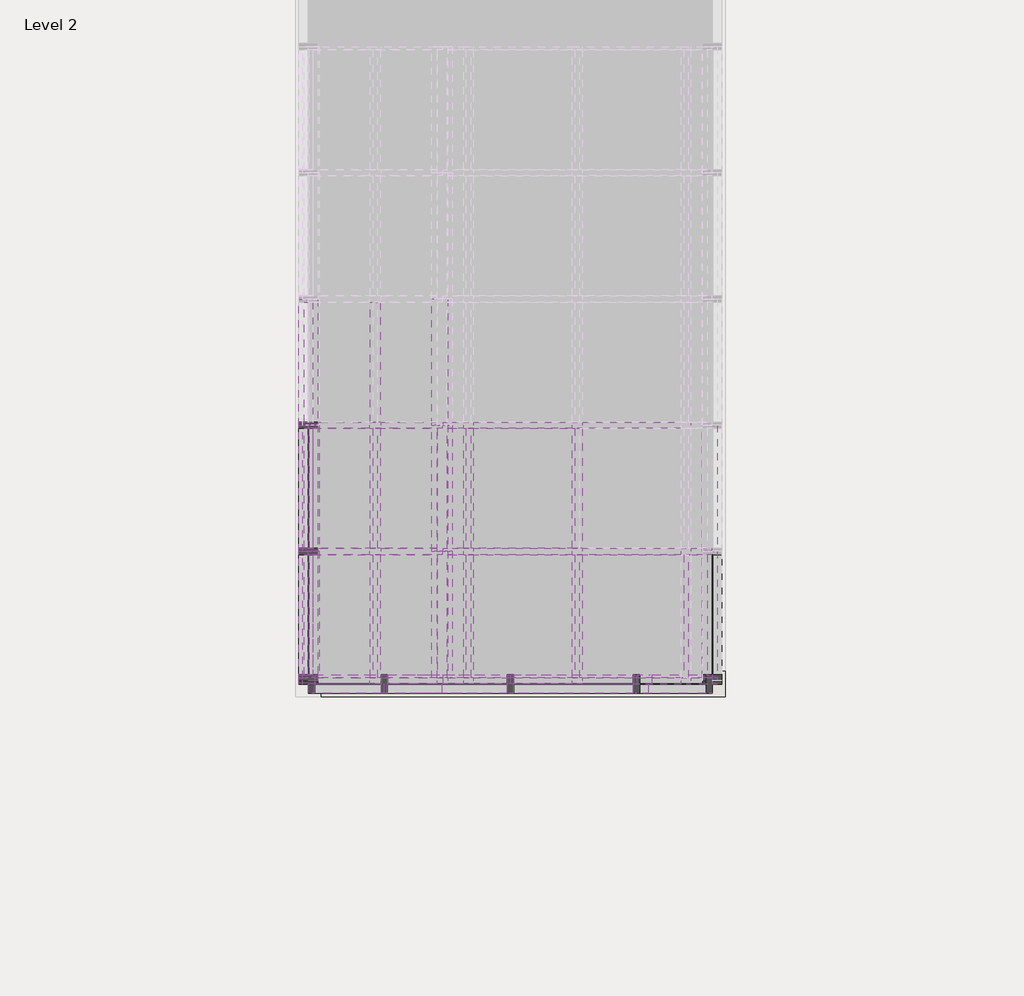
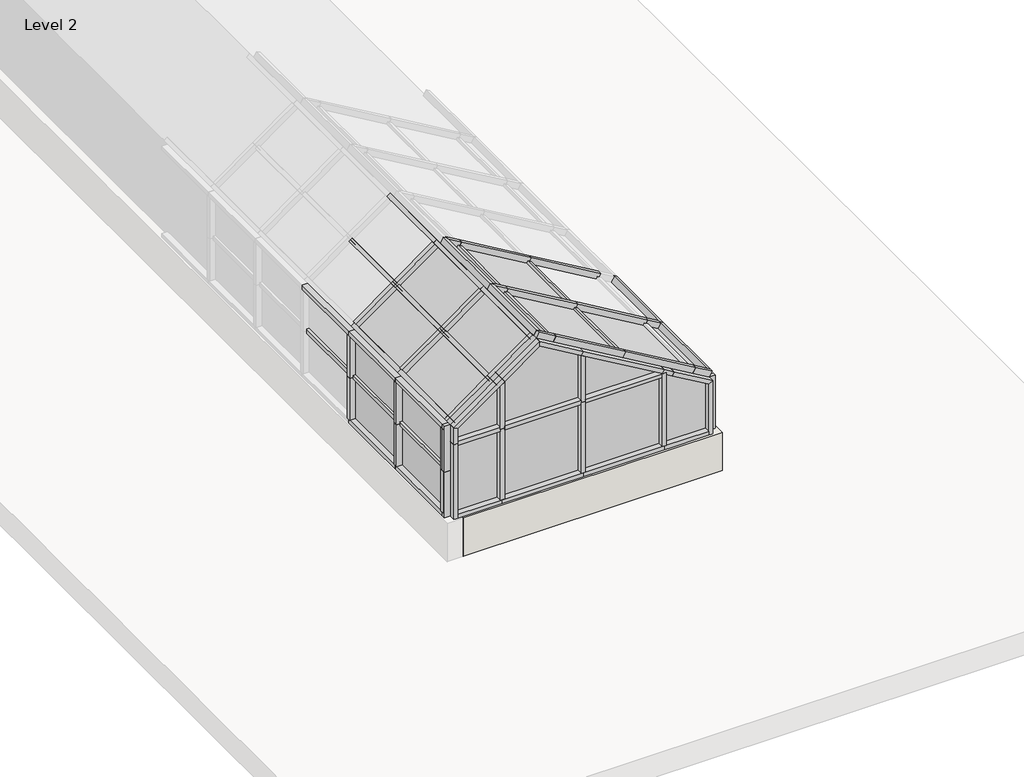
# One storey, part 1 of 5: 73 members, 23 plates, 1 wall.
"""IFC4 building model written with IfcOpenShell, lengths in millimetres."""

from ifc_helpers import new_model, si_unit, origin, place, context, project, spatial, faceted_brep, transform, mapped, element, save
from components import rectangular_mullion_50mm_x_150mm_a053b0ca, rectangular_mullion_50mm_x_150mm_32254d86, rectangular_mullion_50mm_x_150mm_d223150d, rectangular_mullion_50mm_x_150mm_c5f810fe, rectangular_mullion_50mm_x_150mm_f7fe99b2, rectangular_mullion_50mm_x_150mm_8a69f4a4, rectangular_mullion_50mm_x_150mm_cf8f8159, rectangular_mullion_50mm_x_150mm_35f7bb67, rectangular_mullion_50mm_x_150mm_9f3c5d86, rectangular_mullion_50mm_x_150mm_c1d4a15c, rectangular_mullion_50mm_x_150mm_468e4a4c, rectangular_mullion_50mm_x_150mm_efdcecc3, rectangular_mullion_50mm_x_150mm_a958f880, rectangular_mullion_50mm_x_150mm_548437d9, rectangular_mullion_50mm_x_150mm_ce2d75c2, rectangular_mullion_50mm_x_150mm_bbc1c4ea, rectangular_mullion_50mm_x_150mm_eeb88b28, rectangular_mullion_50mm_x_150mm_fae529a7, rectangular_mullion_50mm_x_150mm_10ca3b23, rectangular_mullion_50mm_x_150mm_37271eec, rectangular_mullion_50mm_x_150mm_5dbd0429, rectangular_mullion_50mm_x_150mm_457f67df, rectangular_mullion_50mm_x_150mm_a65b6ca2, rectangular_mullion_50mm_x_150mm_a3f7cd42, rectangular_mullion_50mm_x_150mm_b93c35cb, rectangular_mullion_50mm_x_150mm_5b0837ce, rectangular_mullion_50mm_x_150mm_ae680e05, rectangular_mullion_50mm_x_65mm_20714c67, rectangular_mullion_50mm_x_65mm_31c1307f, system_panel_glazed_870feb4d, system_panel_glazed_ce9ce1f6, system_panel_glazed_7648efc2, system_panel_glazed_054ac1a6, system_panel_glazed_9cc0c483, system_panel_glazed_28aef23e, system_panel_glazed_b73f3a15, system_panel_glazed_e5572be6, system_panel_glazed_8ed7f146, system_panel_glazed_6534091e, system_panel_glazed_73a5751a, system_panel_glazed_5eb767f0, system_panel_glazed_1192e014, system_panel_glazed_51a322f3, system_panel_glazed_750eec45

model = new_model("IFC4")

# Units and contexts
model_context = context("Model", 3, world=origin())
ifc_project = project(units=[si_unit("LENGTHUNIT", "METRE", prefix="MILLI")], contexts=[model_context])

# Site, building, storey
site = spatial("IfcSite", under=ifc_project)
building = spatial("IfcBuilding", under=site)
storey = spatial("IfcBuildingStorey", under=building, Name="Level 2", Elevation=4000.0)

# Members
placement = place(None, origin())
rectangular_mullion_50mm_x_150mm_shape = rectangular_mullion_50mm_x_150mm_a053b0ca(model_context)
element("IfcMember", 1, ObjectType="Rectangular Mullion : 50mm x 150mm", at=placement, inside=storey, context=model_context, shape_type="MappedRepresentation", body=[
    mapped(rectangular_mullion_50mm_x_150mm_shape, transform((3871.0159363, -6466.183534, 5777.9584148), x_axis=(0.0, 0.0, 1.0), y_axis=(0.0, -1.0, 0.0), z_axis=(1.0, 0.0, 0.0))),
])
element("IfcMember", 2, ObjectType="Rectangular Mullion : 50mm x 150mm", at=placement, inside=storey, context=model_context, shape_type="MappedRepresentation", body=[
    mapped(rectangular_mullion_50mm_x_150mm_shape, transform((2871.0159363, -6466.183534, 5777.9584148), x_axis=(0.0, 0.0, 1.0), y_axis=(0.0, -1.0, 0.0), z_axis=(1.0, 0.0, 0.0))),
])
rectangular_mullion_50mm_x_150mm_2_shape = rectangular_mullion_50mm_x_150mm_32254d86(model_context)
element("IfcMember", 3, ObjectType="Rectangular Mullion : 50mm x 150mm", at=placement, inside=storey, context=model_context, shape_type="MappedRepresentation", body=[
    mapped(rectangular_mullion_50mm_x_150mm_2_shape, transform((1825.8229716, -6466.183534, 6375.9168295), x_axis=(0.0, -1.0, 0.0), y_axis=(-0.582827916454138, 0.0, 0.8125956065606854), z_axis=(-0.8125956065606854, 0.0, -0.582827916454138))),
])
element("IfcMember", 4, ObjectType="Rectangular Mullion : 50mm x 150mm", at=placement, inside=storey, context=model_context, shape_type="MappedRepresentation", body=[
    mapped(rectangular_mullion_50mm_x_150mm_2_shape, transform((1296.0159363, -6466.183534, 5995.9168295), x_axis=(0.0, -1.0, 0.0), y_axis=(-0.582827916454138, 0.0, 0.8125956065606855), z_axis=(-0.8125956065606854, 0.0, -0.5828279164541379))),
])
rectangular_mullion_50mm_x_150mm_3_shape = rectangular_mullion_50mm_x_150mm_d223150d(model_context)
element("IfcMember", 5, ObjectType="Rectangular Mullion : 50mm x 150mm", at=placement, inside=storey, context=model_context, shape_type="MappedRepresentation", body=[
    mapped(rectangular_mullion_50mm_x_150mm_3_shape, transform((1296.0159363, -6466.183534, 5397.9584148), x_axis=(0.0, -1.0, 0.0), y_axis=(-1.0, 0.0, 0.0), z_axis=(0.0, 0.0, -1.0))),
])
element("IfcMember", 6, ObjectType="Rectangular Mullion : 50mm x 150mm", at=placement, inside=storey, context=model_context, shape_type="MappedRepresentation", body=[
    mapped(rectangular_mullion_50mm_x_150mm_3_shape, transform((1296.0159363, -6466.183534, 4800.0), x_axis=(0.0, -1.0, 0.0), y_axis=(-1.0, 0.0, 0.0), z_axis=(0.0, 0.0, -1.0))),
])
rectangular_mullion_50mm_x_150mm_4_shape = rectangular_mullion_50mm_x_150mm_c5f810fe(model_context)
element("IfcMember", 7, ObjectType="Rectangular Mullion : 50mm x 150mm", at=placement, inside=storey, context=model_context, shape_type="MappedRepresentation", body=[
    mapped(rectangular_mullion_50mm_x_150mm_4_shape, transform((2896.0159363, -6466.183534, 6437.8030437), x_axis=(-1.0, 0.0, 0.0), y_axis=(0.0, -1.0, 0.0), z_axis=(0.0, 0.0, 1.0))),
])
rectangular_mullion_50mm_x_150mm_5_shape = rectangular_mullion_50mm_x_150mm_f7fe99b2(model_context)
element("IfcMember", 8, ObjectType="Rectangular Mullion : 50mm x 150mm", at=placement, inside=storey, context=model_context, shape_type="MappedRepresentation", body=[
    mapped(rectangular_mullion_50mm_x_150mm_5_shape, transform((1896.0159363, -6466.183534, 6426.2621908), x_axis=(-1.0, 0.0, 0.0), y_axis=(0.0, -1.0, 0.0), z_axis=(0.0, 0.0, 1.0))),
])
rectangular_mullion_50mm_x_150mm_6_shape = rectangular_mullion_50mm_x_150mm_8a69f4a4(model_context)
element("IfcMember", 9, ObjectType="Rectangular Mullion : 50mm x 150mm", at=placement, inside=storey, context=model_context, shape_type="MappedRepresentation", body=[
    mapped(rectangular_mullion_50mm_x_150mm_6_shape, transform((1871.0159363, -6466.183534, 5777.9584148), x_axis=(0.0, 0.0, 1.0), y_axis=(0.0, -1.0, 0.0), z_axis=(1.0, 0.0, 0.0))),
])
rectangular_mullion_50mm_x_150mm_7_shape = rectangular_mullion_50mm_x_150mm_cf8f8159(model_context)
element("IfcMember", 10, ObjectType="Rectangular Mullion : 50mm x 150mm", at=placement, inside=storey, context=model_context, shape_type="MappedRepresentation", body=[
    mapped(rectangular_mullion_50mm_x_150mm_7_shape, transform((3896.0159363, -6466.183534, 5849.1241598), x_axis=(0.5073040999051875, 0.0, 0.8617671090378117), y_axis=(0.0, -1.0, 0.0), z_axis=(0.8617671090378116, 0.0, -0.5073040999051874))),
])
rectangular_mullion_50mm_x_150mm_8_shape = rectangular_mullion_50mm_x_150mm_35f7bb67(model_context)
element("IfcMember", 11, ObjectType="Rectangular Mullion : 50mm x 150mm", at=placement, inside=storey, context=model_context, shape_type="MappedRepresentation", body=[
    mapped(rectangular_mullion_50mm_x_150mm_8_shape, transform((1296.0159363, -6466.183534, 5777.9584148), x_axis=(-1.0, 0.0, 0.0), y_axis=(0.0, -1.0, 0.0), z_axis=(0.0, 0.0, 1.0))),
])
rectangular_mullion_50mm_x_150mm_9_shape = rectangular_mullion_50mm_x_150mm_9f3c5d86(model_context)
element("IfcMember", 12, ObjectType="Rectangular Mullion : 50mm x 150mm", at=placement, inside=storey, context=model_context, shape_type="MappedRepresentation", body=[
    mapped(rectangular_mullion_50mm_x_150mm_9_shape, transform((4016.906539, -6466.183534, 5777.9584148), x_axis=(0.5073040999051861, 0.0, 0.8617671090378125), y_axis=(0.0, -1.0, 0.0), z_axis=(0.8617671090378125, 0.0, -0.5073040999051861))),
])
rectangular_mullion_50mm_x_150mm_10_shape = rectangular_mullion_50mm_x_150mm_c1d4a15c(model_context)
element("IfcMember", 13, ObjectType="Rectangular Mullion : 50mm x 150mm", at=placement, inside=storey, context=model_context, shape_type="MappedRepresentation", body=[
    mapped(rectangular_mullion_50mm_x_150mm_10_shape, transform((1896.0159363, -6466.183534, 6426.2621908), x_axis=(-0.5828279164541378, 0.0, 0.8125956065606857), y_axis=(0.0, -1.0, 0.0), z_axis=(0.8125956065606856, 0.0, 0.5828279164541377))),
])
rectangular_mullion_50mm_x_150mm_11_shape = rectangular_mullion_50mm_x_150mm_468e4a4c(model_context)
element("IfcMember", 14, ObjectType="Rectangular Mullion : 50mm x 150mm", at=placement, inside=storey, context=model_context, shape_type="MappedRepresentation", body=[
    mapped(rectangular_mullion_50mm_x_150mm_11_shape, transform((2896.0159363, -6466.183534, 6437.8030437), x_axis=(0.5073040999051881, 0.0, 0.8617671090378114), y_axis=(0.0, -1.0, 0.0), z_axis=(0.8617671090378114, 0.0, -0.5073040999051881))),
])
rectangular_mullion_50mm_x_150mm_12_shape = rectangular_mullion_50mm_x_150mm_efdcecc3(model_context)
element("IfcMember", 15, ObjectType="Rectangular Mullion : 50mm x 150mm", at=placement, inside=storey, context=model_context, shape_type="MappedRepresentation", body=[
    mapped(rectangular_mullion_50mm_x_150mm_12_shape, transform((4496.0159363, -6466.183534, 5495.9168295), x_axis=(0.5073040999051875, 0.0, 0.8617671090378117), y_axis=(0.0, -1.0, 0.0), z_axis=(0.8617671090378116, 0.0, -0.5073040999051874))),
])
rectangular_mullion_50mm_x_150mm_13_shape = rectangular_mullion_50mm_x_150mm_a958f880(model_context)
element("IfcMember", 16, ObjectType="Rectangular Mullion : 50mm x 150mm", at=placement, inside=storey, context=model_context, shape_type="MappedRepresentation", body=[
    mapped(rectangular_mullion_50mm_x_150mm_13_shape, transform((1296.0159363, -6466.183534, 5995.9168295), x_axis=(-1.0, 0.0, 0.0), y_axis=(0.0, -1.0, 0.0), z_axis=(0.0, 0.0, 1.0))),
])
rectangular_mullion_50mm_x_150mm_14_shape = rectangular_mullion_50mm_x_150mm_548437d9(model_context)
element("IfcMember", 17, ObjectType="Rectangular Mullion : 50mm x 150mm", at=placement, inside=storey, context=model_context, shape_type="MappedRepresentation", body=[
    mapped(rectangular_mullion_50mm_x_150mm_14_shape, transform((4496.0159363, -6466.183534, 4800.0), x_axis=(1.0, 0.0, 0.0), y_axis=(0.0, -1.0, 0.0), z_axis=(0.0, 0.0, -1.0))),
])
rectangular_mullion_50mm_x_150mm_15_shape = rectangular_mullion_50mm_x_150mm_ce2d75c2(model_context)
element("IfcMember", 18, ObjectType="Rectangular Mullion : 50mm x 150mm", at=placement, inside=storey, context=model_context, shape_type="MappedRepresentation", body=[
    mapped(rectangular_mullion_50mm_x_150mm_15_shape, transform((2355.6300069, -6466.183534, 6755.9168295), x_axis=(-0.5828279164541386, 0.0, 0.8125956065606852), y_axis=(0.0, -1.0, 0.0), z_axis=(0.8125956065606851, 0.0, 0.5828279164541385))),
])
rectangular_mullion_50mm_x_150mm_16_shape = rectangular_mullion_50mm_x_150mm_bbc1c4ea(model_context)
element("IfcMember", 19, ObjectType="Rectangular Mullion : 50mm x 150mm", at=placement, inside=storey, context=model_context, shape_type="MappedRepresentation", body=[
    mapped(rectangular_mullion_50mm_x_150mm_16_shape, transform((2564.0558626, -5416.183534, 6633.2209294), x_axis=(0.0, -1.0, 0.0), y_axis=(0.5073040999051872, 0.0, 0.8617671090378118), z_axis=(-0.8617671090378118, 0.0, 0.5073040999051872))),
])
element("IfcMember", 20, ObjectType="Rectangular Mullion : 50mm x 150mm", at=placement, inside=storey, context=model_context, shape_type="MappedRepresentation", body=[
    mapped(rectangular_mullion_50mm_x_150mm_16_shape, transform((3425.8229716, -5416.183534, 6125.9168295), x_axis=(0.0, -1.0, 0.0), y_axis=(0.5073040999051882, 0.0, 0.8617671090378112), z_axis=(-0.8617671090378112, 0.0, 0.5073040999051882))),
])
element("IfcMember", 21, ObjectType="Rectangular Mullion : 50mm x 150mm", at=placement, inside=storey, context=model_context, shape_type="MappedRepresentation", body=[
    mapped(rectangular_mullion_50mm_x_150mm_16_shape, transform((2564.0558626, -4416.183534, 6633.2209294), x_axis=(0.0, -1.0, 0.0), y_axis=(0.5073040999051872, 0.0, 0.8617671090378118), z_axis=(-0.8617671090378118, 0.0, 0.5073040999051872))),
])
element("IfcMember", 22, ObjectType="Rectangular Mullion : 50mm x 150mm", at=placement, inside=storey, context=model_context, shape_type="MappedRepresentation", body=[
    mapped(rectangular_mullion_50mm_x_150mm_16_shape, transform((3425.8229716, -4416.183534, 6125.9168295), x_axis=(0.0, -1.0, 0.0), y_axis=(0.507304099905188, 0.0, 0.8617671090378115), z_axis=(-0.8617671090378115, 0.0, 0.507304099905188))),
])
rectangular_mullion_50mm_x_150mm_17_shape = rectangular_mullion_50mm_x_150mm_eeb88b28(model_context)
element("IfcMember", 23, ObjectType="Rectangular Mullion : 50mm x 150mm", at=placement, inside=storey, context=model_context, shape_type="MappedRepresentation", body=[
    mapped(rectangular_mullion_50mm_x_150mm_17_shape, transform((2564.0558626, -6466.183534, 6633.2209294), x_axis=(0.0, -1.0, 0.0), y_axis=(0.507304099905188, 0.0, 0.8617671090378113), z_axis=(-0.8617671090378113, 0.0, 0.507304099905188))),
])
element("IfcMember", 24, ObjectType="Rectangular Mullion : 50mm x 150mm", at=placement, inside=storey, context=model_context, shape_type="MappedRepresentation", body=[
    mapped(rectangular_mullion_50mm_x_150mm_17_shape, transform((3425.8229716, -6466.183534, 6125.9168295), x_axis=(0.0, -1.0, 0.0), y_axis=(0.5073040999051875, 0.0, 0.8617671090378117), z_axis=(-0.8617671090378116, 0.0, 0.5073040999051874))),
])
rectangular_mullion_50mm_x_150mm_18_shape = rectangular_mullion_50mm_x_150mm_fae529a7(model_context)
element("IfcMember", 25, ObjectType="Rectangular Mullion : 50mm x 150mm", at=placement, inside=storey, context=model_context, shape_type="MappedRepresentation", body=[
    mapped(rectangular_mullion_50mm_x_150mm_18_shape, transform((4287.5900806, -6466.183534, 5618.6127296), x_axis=(0.0, -1.0, 0.0), y_axis=(0.507304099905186, 0.0, 0.8617671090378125), z_axis=(-0.8617671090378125, 0.0, 0.507304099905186))),
])
element("IfcMember", 26, ObjectType="Rectangular Mullion : 50mm x 150mm", at=placement, inside=storey, context=model_context, shape_type="MappedRepresentation", body=[
    mapped(rectangular_mullion_50mm_x_150mm_18_shape, transform((2355.6300069, -6466.183534, 6755.9168295), x_axis=(0.0, -1.0, 0.0), y_axis=(0.5073040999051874, 0.0, 0.8617671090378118), z_axis=(-0.8617671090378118, 0.0, 0.5073040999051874))),
])
rectangular_mullion_50mm_x_150mm_19_shape = rectangular_mullion_50mm_x_150mm_10ca3b23(model_context)
element("IfcMember", 27, ObjectType="Rectangular Mullion : 50mm x 150mm", at=placement, inside=storey, context=model_context, shape_type="MappedRepresentation", body=[
    mapped(rectangular_mullion_50mm_x_150mm_19_shape, transform((4496.0159363, -6466.183534, 5495.9168295), x_axis=(0.0, -1.0, 0.0), y_axis=(1.0, 0.0, 0.0), z_axis=(0.0, 0.0, 1.0))),
])
element("IfcMember", 28, ObjectType="Rectangular Mullion : 50mm x 150mm", at=placement, inside=storey, context=model_context, shape_type="MappedRepresentation", body=[
    mapped(rectangular_mullion_50mm_x_150mm_17_shape, transform((1296.0159363, -4416.183534, 5995.9168295), x_axis=(-0.8125956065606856, 0.0, -0.5828279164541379), y_axis=(-0.5828279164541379, 0.0, 0.8125956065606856), z_axis=(0.0, 1.0, 0.0))),
])
element("IfcMember", 29, ObjectType="Rectangular Mullion : 50mm x 150mm", at=placement, inside=storey, context=model_context, shape_type="MappedRepresentation", body=[
    mapped(rectangular_mullion_50mm_x_150mm_17_shape, transform((1296.0159363, -4416.183534, 4800.0), x_axis=(0.0, 0.0, -1.0), y_axis=(-1.0, 0.0, 0.0), z_axis=(0.0, 1.0, 0.0))),
])
element("IfcMember", 30, ObjectType="Rectangular Mullion : 50mm x 150mm", at=placement, inside=storey, context=model_context, shape_type="MappedRepresentation", body=[
    mapped(rectangular_mullion_50mm_x_150mm_17_shape, transform((1896.0159363, -6466.183534, 4800.0), x_axis=(0.0, 0.0, -1.0), y_axis=(0.0, -1.0, 0.0), z_axis=(-1.0, 0.0, 0.0))),
])
element("IfcMember", 31, ObjectType="Rectangular Mullion : 50mm x 150mm", at=placement, inside=storey, context=model_context, shape_type="MappedRepresentation", body=[
    mapped(rectangular_mullion_50mm_x_150mm_17_shape, transform((2896.0159363, -6466.183534, 4800.0), x_axis=(0.0, 0.0, -1.0), y_axis=(0.0, -1.0, 0.0), z_axis=(-1.0, 0.0, 0.0))),
])
element("IfcMember", 32, ObjectType="Rectangular Mullion : 50mm x 150mm", at=placement, inside=storey, context=model_context, shape_type="MappedRepresentation", body=[
    mapped(rectangular_mullion_50mm_x_150mm_17_shape, transform((4496.0159363, -5416.183534, 5495.9168295), x_axis=(0.8617671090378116, 0.0, -0.5073040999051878), y_axis=(0.5073040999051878, 0.0, 0.8617671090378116), z_axis=(0.0, -1.0, 0.0))),
])
rectangular_mullion_50mm_x_150mm_20_shape = rectangular_mullion_50mm_x_150mm_37271eec(model_context)
element("IfcMember", 33, ObjectType="Rectangular Mullion : 50mm x 150mm", at=placement, inside=storey, context=model_context, shape_type="MappedRepresentation", body=[
    mapped(rectangular_mullion_50mm_x_150mm_20_shape, transform((3896.0159363, -6466.183534, 5802.9584148), x_axis=(-1.0, 0.0, 0.0), y_axis=(0.0, -1.0, 0.0), z_axis=(0.0, 0.0, 1.0))),
])
rectangular_mullion_50mm_x_150mm_21_shape = rectangular_mullion_50mm_x_150mm_5dbd0429(model_context)
element("IfcMember", 34, ObjectType="Rectangular Mullion : 50mm x 150mm", at=placement, inside=storey, context=model_context, shape_type="MappedRepresentation", body=[
    mapped(rectangular_mullion_50mm_x_150mm_21_shape, transform((3896.0159363, -6466.183534, 4800.0), x_axis=(0.0, 0.0, -1.0), y_axis=(0.0, -1.0, 0.0), z_axis=(-1.0, 0.0, 0.0))),
])
rectangular_mullion_50mm_x_150mm_22_shape = rectangular_mullion_50mm_x_150mm_457f67df(model_context)
element("IfcMember", 35, ObjectType="Rectangular Mullion : 50mm x 150mm", at=placement, inside=storey, context=model_context, shape_type="MappedRepresentation", body=[
    mapped(rectangular_mullion_50mm_x_150mm_22_shape, transform((2896.0159363, -6466.183534, 5777.9584148), x_axis=(-1.0, 0.0, 0.0), y_axis=(0.0, -1.0, 0.0), z_axis=(0.0, 0.0, 1.0))),
])
element("IfcMember", 36, ObjectType="Rectangular Mullion : 50mm x 150mm", at=placement, inside=storey, context=model_context, shape_type="MappedRepresentation", body=[
    mapped(rectangular_mullion_50mm_x_150mm_22_shape, transform((1896.0159363, -6466.183534, 5777.9584148), x_axis=(-1.0, 0.0, 0.0), y_axis=(0.0, -1.0, 0.0), z_axis=(0.0, 0.0, 1.0))),
])
element("IfcMember", 37, ObjectType="Rectangular Mullion : 50mm x 150mm", at=placement, inside=storey, context=model_context, shape_type="MappedRepresentation", body=[
    mapped(rectangular_mullion_50mm_x_150mm_21_shape, transform((1346.0159363, -6466.183534, 4800.0), x_axis=(0.0, 0.0, -1.0), y_axis=(0.0, -1.0, 0.0), z_axis=(-1.0, 0.0, 0.0))),
])
rectangular_mullion_50mm_x_150mm_23_shape = rectangular_mullion_50mm_x_150mm_a65b6ca2(model_context)
element("IfcMember", 38, ObjectType="Rectangular Mullion : 50mm x 150mm", at=placement, inside=storey, context=model_context, shape_type="MappedRepresentation", body=[
    mapped(rectangular_mullion_50mm_x_150mm_23_shape, transform((1296.0159363, -6441.183534, 5995.9168295), x_axis=(0.0, 0.0, 1.0), y_axis=(-1.0, 0.0, 0.0), z_axis=(0.0, -1.0, 0.0))),
])
element("IfcMember", 39, ObjectType="Rectangular Mullion : 50mm x 150mm", at=placement, inside=storey, context=model_context, shape_type="MappedRepresentation", body=[
    mapped(rectangular_mullion_50mm_x_150mm_17_shape, transform((2355.6300069, -5416.183534, 6755.9168295), x_axis=(0.8125956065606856, 0.0, 0.5828279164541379), y_axis=(-0.5828279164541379, 0.0, 0.8125956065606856), z_axis=(0.0, -1.0, 0.0))),
])
element("IfcMember", 40, ObjectType="Rectangular Mullion : 50mm x 150mm", at=placement, inside=storey, context=model_context, shape_type="MappedRepresentation", body=[
    mapped(rectangular_mullion_50mm_x_150mm_17_shape, transform((2355.6300069, -4416.183534, 6755.9168295), x_axis=(0.8125956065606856, 0.0, 0.5828279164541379), y_axis=(-0.5828279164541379, 0.0, 0.8125956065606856), z_axis=(0.0, -1.0, 0.0))),
])
element("IfcMember", 41, ObjectType="Rectangular Mullion : 50mm x 150mm", at=placement, inside=storey, context=model_context, shape_type="MappedRepresentation", body=[
    mapped(rectangular_mullion_50mm_x_150mm_17_shape, transform((1296.0159363, -4416.183534, 5995.9168295), x_axis=(0.0, 0.0, 1.0), y_axis=(-1.0, 0.0, 0.0), z_axis=(0.0, -1.0, 0.0))),
])
element("IfcMember", 42, ObjectType="Rectangular Mullion : 50mm x 150mm", at=placement, inside=storey, context=model_context, shape_type="MappedRepresentation", body=[
    mapped(rectangular_mullion_50mm_x_150mm_17_shape, transform((1296.0159363, -5416.183534, 5995.9168295), x_axis=(0.0, 0.0, 1.0), y_axis=(-1.0, 0.0, 0.0), z_axis=(0.0, -1.0, 0.0))),
])
element("IfcMember", 43, ObjectType="Rectangular Mullion : 50mm x 150mm", at=placement, inside=storey, context=model_context, shape_type="MappedRepresentation", body=[
    mapped(rectangular_mullion_50mm_x_150mm_17_shape, transform((2355.6300069, -4416.183534, 6755.9168295), x_axis=(-0.8617671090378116, 0.0, 0.5073040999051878), y_axis=(0.5073040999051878, 0.0, 0.8617671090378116), z_axis=(0.0, 1.0, 0.0))),
])
element("IfcMember", 44, ObjectType="Rectangular Mullion : 50mm x 150mm", at=placement, inside=storey, context=model_context, shape_type="MappedRepresentation", body=[
    mapped(rectangular_mullion_50mm_x_150mm_23_shape, transform((4496.0159363, -6441.183534, 4800.0), x_axis=(0.0, 0.0, -1.0), y_axis=(1.0, 0.0, 0.0), z_axis=(0.0, -1.0, 0.0))),
])
element("IfcMember", 45, ObjectType="Rectangular Mullion : 50mm x 150mm", at=placement, inside=storey, context=model_context, shape_type="MappedRepresentation", body=[
    mapped(rectangular_mullion_50mm_x_150mm_23_shape, transform((1296.0159363, -5416.183534, 4800.0), x_axis=(0.0, 0.0, -1.0), y_axis=(-1.0, 0.0, 0.0), z_axis=(0.0, 1.0, 0.0))),
])
rectangular_mullion_50mm_x_150mm_24_shape = rectangular_mullion_50mm_x_150mm_a3f7cd42(model_context)
element("IfcMember", 46, ObjectType="Rectangular Mullion : 50mm x 150mm", at=placement, inside=storey, context=model_context, shape_type="MappedRepresentation", body=[
    mapped(rectangular_mullion_50mm_x_150mm_24_shape, transform((2315.0002265, -4416.183534, 6726.7754337), x_axis=(0.0, 1.0, 0.0), y_axis=(-0.5828279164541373, 0.0, 0.8125956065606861), z_axis=(0.812595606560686, 0.0, 0.5828279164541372))),
])
element("IfcMember", 47, ObjectType="Rectangular Mullion : 50mm x 150mm", at=placement, inside=storey, context=model_context, shape_type="MappedRepresentation", body=[
    mapped(rectangular_mullion_50mm_x_150mm_24_shape, transform((2315.0002265, -5416.183534, 6726.7754337), x_axis=(0.0, 1.0, 0.0), y_axis=(-0.5828279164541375, 0.0, 0.8125956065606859), z_axis=(0.8125956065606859, 0.0, 0.5828279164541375))),
])
element("IfcMember", 48, ObjectType="Rectangular Mullion : 50mm x 150mm", at=placement, inside=storey, context=model_context, shape_type="MappedRepresentation", body=[
    mapped(rectangular_mullion_50mm_x_150mm_24_shape, transform((1825.8229716, -4416.183534, 6375.9168295), x_axis=(0.0, 1.0, 0.0), y_axis=(-0.582827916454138, 0.0, 0.8125956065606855), z_axis=(0.8125956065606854, 0.0, 0.5828279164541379))),
])
element("IfcMember", 49, ObjectType="Rectangular Mullion : 50mm x 150mm", at=placement, inside=storey, context=model_context, shape_type="MappedRepresentation", body=[
    mapped(rectangular_mullion_50mm_x_150mm_24_shape, transform((1825.8229716, -5416.183534, 6375.9168295), x_axis=(0.0, 1.0, 0.0), y_axis=(-0.5828279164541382, 0.0, 0.8125956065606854), z_axis=(0.8125956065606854, 0.0, 0.5828279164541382))),
])
rectangular_mullion_50mm_x_150mm_25_shape = rectangular_mullion_50mm_x_150mm_b93c35cb(model_context)
element("IfcMember", 50, ObjectType="Rectangular Mullion : 50mm x 150mm", at=placement, inside=storey, context=model_context, shape_type="MappedRepresentation", body=[
    mapped(rectangular_mullion_50mm_x_150mm_25_shape, transform((1296.0159363, -4416.183534, 5397.9584148), x_axis=(0.0, 1.0, 0.0), y_axis=(-1.0, 0.0, 0.0), z_axis=(0.0, 0.0, 1.0))),
])
element("IfcMember", 51, ObjectType="Rectangular Mullion : 50mm x 150mm", at=placement, inside=storey, context=model_context, shape_type="MappedRepresentation", body=[
    mapped(rectangular_mullion_50mm_x_150mm_25_shape, transform((1296.0159363, -5416.183534, 5397.9584148), x_axis=(0.0, 1.0, 0.0), y_axis=(-1.0, 0.0, 0.0), z_axis=(0.0, 0.0, 1.0))),
])
element("IfcMember", 52, ObjectType="Rectangular Mullion : 50mm x 150mm", at=placement, inside=storey, context=model_context, shape_type="MappedRepresentation", body=[
    mapped(rectangular_mullion_50mm_x_150mm_25_shape, transform((1296.0159363, -6416.183534, 5397.9584148), x_axis=(0.0, 1.0, 0.0), y_axis=(-1.0, 0.0, 0.0), z_axis=(0.0, 0.0, 1.0))),
])
element("IfcMember", 53, ObjectType="Rectangular Mullion : 50mm x 150mm", at=placement, inside=storey, context=model_context, shape_type="MappedRepresentation", body=[
    mapped(rectangular_mullion_50mm_x_150mm_25_shape, transform((1296.0159363, -6416.183534, 5945.9168295), x_axis=(0.0, 1.0, 0.0), y_axis=(-1.0, 0.0, 0.0), z_axis=(0.0, 0.0, 1.0))),
])
element("IfcMember", 54, ObjectType="Rectangular Mullion : 50mm x 150mm", at=placement, inside=storey, context=model_context, shape_type="MappedRepresentation", body=[
    mapped(rectangular_mullion_50mm_x_150mm_25_shape, transform((1296.0159363, -4416.183534, 5945.9168295), x_axis=(0.0, 1.0, 0.0), y_axis=(-1.0, 0.0, 0.0), z_axis=(0.0, 0.0, 1.0))),
])
element("IfcMember", 55, ObjectType="Rectangular Mullion : 50mm x 150mm", at=placement, inside=storey, context=model_context, shape_type="MappedRepresentation", body=[
    mapped(rectangular_mullion_50mm_x_150mm_25_shape, transform((1296.0159363, -5416.183534, 5945.9168295), x_axis=(0.0, 1.0, 0.0), y_axis=(-1.0, 0.0, 0.0), z_axis=(0.0, 0.0, 1.0))),
])
rectangular_mullion_50mm_x_150mm_26_shape = rectangular_mullion_50mm_x_150mm_5b0837ce(model_context)
element("IfcMember", 56, ObjectType="Rectangular Mullion : 50mm x 150mm", at=placement, inside=storey, context=model_context, shape_type="MappedRepresentation", body=[
    mapped(rectangular_mullion_50mm_x_150mm_26_shape, transform((2398.7183623, -5416.183534, 6730.5516245), x_axis=(0.0, -1.0, 0.0), y_axis=(0.5073040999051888, 0.0, 0.8617671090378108), z_axis=(-0.8617671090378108, 0.0, 0.5073040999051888))),
])
element("IfcMember", 57, ObjectType="Rectangular Mullion : 50mm x 150mm", at=placement, inside=storey, context=model_context, shape_type="MappedRepresentation", body=[
    mapped(rectangular_mullion_50mm_x_150mm_26_shape, transform((2398.7183623, -4416.183534, 6730.5516245), x_axis=(0.0, -1.0, 0.0), y_axis=(0.5073040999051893, 0.0, 0.8617671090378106), z_axis=(-0.8617671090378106, 0.0, 0.5073040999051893))),
])
element("IfcMember", 58, ObjectType="Rectangular Mullion : 50mm x 150mm", at=placement, inside=storey, context=model_context, shape_type="MappedRepresentation", body=[
    mapped(rectangular_mullion_50mm_x_150mm_26_shape, transform((4287.5900806, -5416.183534, 5618.6127296), x_axis=(0.0, -1.0, 0.0), y_axis=(0.507304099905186, 0.0, 0.8617671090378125), z_axis=(-0.8617671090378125, 0.0, 0.507304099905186))),
])
rectangular_mullion_50mm_x_150mm_27_shape = rectangular_mullion_50mm_x_150mm_ae680e05(model_context)
element("IfcMember", 59, ObjectType="Rectangular Mullion : 50mm x 150mm", at=placement, inside=storey, context=model_context, shape_type="MappedRepresentation", body=[
    mapped(rectangular_mullion_50mm_x_150mm_27_shape, transform((4496.0159363, -6416.183534, 5445.9168295), x_axis=(0.0, -1.0, 0.0), y_axis=(1.0, 0.0, 0.0), z_axis=(0.0, 0.0, 1.0))),
])
element("IfcMember", 60, ObjectType="Rectangular Mullion : 50mm x 150mm", at=placement, inside=storey, context=model_context, shape_type="MappedRepresentation", body=[
    mapped(rectangular_mullion_50mm_x_150mm_17_shape, transform((1296.0159363, -5416.183534, 5995.9168295), x_axis=(-0.8125956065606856, 0.0, -0.5828279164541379), y_axis=(-0.5828279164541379, 0.0, 0.8125956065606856), z_axis=(0.0, 1.0, 0.0))),
])
element("IfcMember", 61, ObjectType="Rectangular Mullion : 50mm x 150mm", at=placement, inside=storey, context=model_context, shape_type="MappedRepresentation", body=[
    mapped(rectangular_mullion_50mm_x_150mm_17_shape, transform((2355.6300069, -6416.183534, 6755.9168295), x_axis=(0.8125956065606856, 0.0, 0.5828279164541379), y_axis=(-0.5828279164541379, 0.0, 0.8125956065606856), z_axis=(0.0, -1.0, 0.0))),
])
element("IfcMember", 62, ObjectType="Rectangular Mullion : 50mm x 150mm", at=placement, inside=storey, context=model_context, shape_type="MappedRepresentation", body=[
    mapped(rectangular_mullion_50mm_x_150mm_17_shape, transform((2355.6300069, -5416.183534, 6755.9168295), x_axis=(-0.8617671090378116, 0.0, 0.5073040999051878), y_axis=(0.5073040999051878, 0.0, 0.8617671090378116), z_axis=(0.0, 1.0, 0.0))),
])
element("IfcMember", 63, ObjectType="Rectangular Mullion : 50mm x 150mm", at=placement, inside=storey, context=model_context, shape_type="MappedRepresentation", body=[
    mapped(rectangular_mullion_50mm_x_150mm_17_shape, transform((4496.0159363, -6416.183534, 5495.9168295), x_axis=(0.8617671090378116, 0.0, -0.5073040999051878), y_axis=(0.5073040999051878, 0.0, 0.8617671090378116), z_axis=(0.0, -1.0, 0.0))),
])
rectangular_mullion_50mm_x_65mm_shape = rectangular_mullion_50mm_x_65mm_20714c67(model_context)
element("IfcMember", 64, ObjectType="Rectangular Mullion : 50mm x 65mm", at=placement, inside=storey, context=model_context, shape_type="MappedRepresentation", body=[
    mapped(rectangular_mullion_50mm_x_65mm_shape, transform((1825.8229716, -6416.183534, 6375.9168295), x_axis=(0.8125956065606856, 0.0, 0.5828279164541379), y_axis=(-0.5828279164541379, 0.0, 0.8125956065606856), z_axis=(0.0, -1.0, 0.0))),
])
element("IfcMember", 65, ObjectType="Rectangular Mullion : 50mm x 65mm", at=placement, inside=storey, context=model_context, shape_type="MappedRepresentation", body=[
    mapped(rectangular_mullion_50mm_x_65mm_shape, transform((2564.0558626, -5441.183534, 6633.2209294), x_axis=(-0.8617671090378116, 0.0, 0.5073040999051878), y_axis=(0.5073040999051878, 0.0, 0.8617671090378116), z_axis=(0.0, 1.0, 0.0))),
])
element("IfcMember", 66, ObjectType="Rectangular Mullion : 50mm x 65mm", at=placement, inside=storey, context=model_context, shape_type="MappedRepresentation", body=[
    mapped(rectangular_mullion_50mm_x_65mm_shape, transform((3425.8229716, -5441.183534, 6125.9168295), x_axis=(-0.8617671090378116, 0.0, 0.5073040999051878), y_axis=(0.5073040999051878, 0.0, 0.8617671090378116), z_axis=(0.0, 1.0, 0.0))),
])
rectangular_mullion_50mm_x_65mm_2_shape = rectangular_mullion_50mm_x_65mm_31c1307f(model_context)
element("IfcMember", 67, ObjectType="Rectangular Mullion : 50mm x 65mm", at=placement, inside=storey, context=model_context, shape_type="MappedRepresentation", body=[
    mapped(rectangular_mullion_50mm_x_65mm_2_shape, transform((1825.8229716, -5391.183534, 6375.9168295), x_axis=(0.8125956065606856, 0.0, 0.5828279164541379), y_axis=(-0.5828279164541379, 0.0, 0.8125956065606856), z_axis=(0.0, -1.0, 0.0))),
])
element("IfcMember", 68, ObjectType="Rectangular Mullion : 50mm x 65mm", at=placement, inside=storey, context=model_context, shape_type="MappedRepresentation", body=[
    mapped(rectangular_mullion_50mm_x_65mm_2_shape, transform((1825.8229716, -4391.183534, 6375.9168295), x_axis=(0.8125956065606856, 0.0, 0.5828279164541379), y_axis=(-0.5828279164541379, 0.0, 0.8125956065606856), z_axis=(0.0, -1.0, 0.0))),
])
element("IfcMember", 69, ObjectType="Rectangular Mullion : 50mm x 65mm", at=placement, inside=storey, context=model_context, shape_type="MappedRepresentation", body=[
    mapped(rectangular_mullion_50mm_x_65mm_2_shape, transform((1296.0159363, -5391.183534, 5397.9584148), x_axis=(0.0, 0.0, 1.0), y_axis=(-1.0, 0.0, 0.0), z_axis=(0.0, -1.0, 0.0))),
])
element("IfcMember", 70, ObjectType="Rectangular Mullion : 50mm x 65mm", at=placement, inside=storey, context=model_context, shape_type="MappedRepresentation", body=[
    mapped(rectangular_mullion_50mm_x_65mm_2_shape, transform((1296.0159363, -4391.183534, 5397.9584148), x_axis=(0.0, 0.0, 1.0), y_axis=(-1.0, 0.0, 0.0), z_axis=(0.0, -1.0, 0.0))),
])
element("IfcMember", 71, ObjectType="Rectangular Mullion : 50mm x 65mm", at=placement, inside=storey, context=model_context, shape_type="MappedRepresentation", body=[
    mapped(rectangular_mullion_50mm_x_65mm_2_shape, transform((1296.0159363, -6391.183534, 5397.9584148), x_axis=(0.0, 0.0, 1.0), y_axis=(-1.0, 0.0, 0.0), z_axis=(0.0, -1.0, 0.0))),
])
element("IfcMember", 72, ObjectType="Rectangular Mullion : 50mm x 65mm", at=placement, inside=storey, context=model_context, shape_type="MappedRepresentation", body=[
    mapped(rectangular_mullion_50mm_x_65mm_2_shape, transform((2564.0558626, -4441.183534, 6633.2209294), x_axis=(-0.8617671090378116, 0.0, 0.5073040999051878), y_axis=(0.5073040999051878, 0.0, 0.8617671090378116), z_axis=(0.0, 1.0, 0.0))),
])
element("IfcMember", 73, ObjectType="Rectangular Mullion : 50mm x 65mm", at=placement, inside=storey, context=model_context, shape_type="MappedRepresentation", body=[
    mapped(rectangular_mullion_50mm_x_65mm_2_shape, transform((3425.8229716, -4441.183534, 6125.9168295), x_axis=(-0.8617671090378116, 0.0, 0.5073040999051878), y_axis=(0.5073040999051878, 0.0, 0.8617671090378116), z_axis=(0.0, 1.0, 0.0))),
])

# Plates
system_panel_glazed_shape = system_panel_glazed_870feb4d(model_context)
element("IfcPlate", 74, ObjectType="System Panel : Glazed", at=placement, inside=storey, context=model_context, shape_type="MappedRepresentation", body=[
    mapped(system_panel_glazed_shape, transform((1336.6457166, -4916.183534, 6025.0582253), x_axis=(0.0, 1.0, 0.0), y_axis=(-0.5828279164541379, 0.0, 0.8125956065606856), z_axis=(0.8125956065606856, 0.0, 0.5828279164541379))),
])
element("IfcPlate", 75, ObjectType="System Panel : Glazed", at=placement, inside=storey, context=model_context, shape_type="MappedRepresentation", body=[
    mapped(system_panel_glazed_shape, transform((1846.1378618, -4916.183534, 6390.4875274), x_axis=(0.0, 1.0, 0.0), y_axis=(-0.5828279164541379, 0.0, 0.8125956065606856), z_axis=(0.8125956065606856, 0.0, 0.5828279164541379))),
])
system_panel_glazed_2_shape = system_panel_glazed_ce9ce1f6(model_context)
element("IfcPlate", 76, ObjectType="System Panel : Glazed", at=placement, inside=storey, context=model_context, shape_type="MappedRepresentation", body=[
    mapped(system_panel_glazed_2_shape, transform((1296.0159363, -4916.183534, 4850.0), x_axis=(0.0, 1.0, 0.0), y_axis=(-1.0, 0.0, 0.0), z_axis=(0.0, 0.0, 1.0))),
])
element("IfcPlate", 77, ObjectType="System Panel : Glazed", at=placement, inside=storey, context=model_context, shape_type="MappedRepresentation", body=[
    mapped(system_panel_glazed_2_shape, transform((1296.0159363, -5916.183534, 4850.0), x_axis=(0.0, 1.0, 0.0), y_axis=(-1.0, 0.0, 0.0), z_axis=(0.0, 0.0, 1.0))),
])
element("IfcPlate", 78, ObjectType="System Panel : Glazed", at=placement, inside=storey, context=model_context, shape_type="MappedRepresentation", body=[
    mapped(system_panel_glazed_2_shape, transform((1296.0159363, -5916.183534, 5422.9584148), x_axis=(0.0, 1.0, 0.0), y_axis=(-1.0, 0.0, 0.0), z_axis=(0.0, 0.0, 1.0))),
])
element("IfcPlate", 79, ObjectType="System Panel : Glazed", at=placement, inside=storey, context=model_context, shape_type="MappedRepresentation", body=[
    mapped(system_panel_glazed_2_shape, transform((1296.0159363, -4916.183534, 5422.9584148), x_axis=(0.0, 1.0, 0.0), y_axis=(-1.0, 0.0, 0.0), z_axis=(0.0, 0.0, 1.0))),
])
system_panel_glazed_3_shape = system_panel_glazed_7648efc2(model_context)
element("IfcPlate", 80, ObjectType="System Panel : Glazed", at=placement, inside=storey, context=model_context, shape_type="MappedRepresentation", body=[
    mapped(system_panel_glazed_3_shape, transform((2396.0159363, -6466.183534, 4850.0), x_axis=(-1.0, 0.0, 0.0), y_axis=(0.0, -1.0, 0.0), z_axis=(0.0, 0.0, 1.0))),
])
element("IfcPlate", 81, ObjectType="System Panel : Glazed", at=placement, inside=storey, context=model_context, shape_type="MappedRepresentation", body=[
    mapped(system_panel_glazed_3_shape, transform((3396.0159363, -6466.183534, 4850.0), x_axis=(-1.0, 0.0, 0.0), y_axis=(0.0, -1.0, 0.0), z_axis=(0.0, 0.0, 1.0))),
])
system_panel_glazed_4_shape = system_panel_glazed_054ac1a6(model_context)
element("IfcPlate", 82, ObjectType="System Panel : Glazed", at=placement, inside=storey, context=model_context, shape_type="MappedRepresentation", body=[
    mapped(system_panel_glazed_4_shape, transform((1608.5159363, -6466.183534, 4850.0), x_axis=(-1.0, 0.0, 0.0), y_axis=(0.0, -1.0, 0.0), z_axis=(0.0, 0.0, 1.0))),
])
system_panel_glazed_5_shape = system_panel_glazed_9cc0c483(model_context)
element("IfcPlate", 83, ObjectType="System Panel : Glazed", at=placement, inside=storey, context=model_context, shape_type="MappedRepresentation", body=[
    mapped(system_panel_glazed_5_shape, transform((2396.0159363, -6466.183534, 5802.9584148), x_axis=(-1.0, 0.0, 0.0), y_axis=(0.0, -1.0, 0.0), z_axis=(0.0, 0.0, 1.0))),
])
system_panel_glazed_6_shape = system_panel_glazed_28aef23e(model_context)
element("IfcPlate", 84, ObjectType="System Panel : Glazed", at=placement, inside=storey, context=model_context, shape_type="MappedRepresentation", body=[
    mapped(system_panel_glazed_6_shape, transform((1608.5159363, -6466.183534, 5802.9584148), x_axis=(-1.0, 0.0, 0.0), y_axis=(0.0, -1.0, 0.0), z_axis=(0.0, 0.0, 1.0))),
])
system_panel_glazed_7_shape = system_panel_glazed_b73f3a15(model_context)
element("IfcPlate", 85, ObjectType="System Panel : Glazed", at=placement, inside=storey, context=model_context, shape_type="MappedRepresentation", body=[
    mapped(system_panel_glazed_7_shape, transform((2542.5116848, -4916.183534, 6645.9035319), x_axis=(0.0, -1.0, 0.0), y_axis=(0.5073040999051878, 0.0, 0.8617671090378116), z_axis=(-0.8617671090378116, 0.0, 0.5073040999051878))),
])
system_panel_glazed_8_shape = system_panel_glazed_e5572be6(model_context)
element("IfcPlate", 86, ObjectType="System Panel : Glazed", at=placement, inside=storey, context=model_context, shape_type="MappedRepresentation", body=[
    mapped(system_panel_glazed_8_shape, transform((3404.2787939, -4916.183534, 6138.599432), x_axis=(0.0, -1.0, 0.0), y_axis=(0.5073040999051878, 0.0, 0.8617671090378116), z_axis=(-0.8617671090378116, 0.0, 0.5073040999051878))),
])
system_panel_glazed_9_shape = system_panel_glazed_8ed7f146(model_context)
element("IfcPlate", 87, ObjectType="System Panel : Glazed", at=placement, inside=storey, context=model_context, shape_type="MappedRepresentation", body=[
    mapped(system_panel_glazed_9_shape, transform((4496.0159363, -5916.183534, 4850.0), x_axis=(0.0, -1.0, 0.0), y_axis=(1.0, 0.0, 0.0), z_axis=(0.0, 0.0, 1.0))),
])
system_panel_glazed_10_shape = system_panel_glazed_6534091e(model_context)
element("IfcPlate", 88, ObjectType="System Panel : Glazed", at=placement, inside=storey, context=model_context, shape_type="MappedRepresentation", body=[
    mapped(system_panel_glazed_10_shape, transform((3408.5159363, -6466.183534, 5802.9584148), x_axis=(-1.0, 0.0, 0.0), y_axis=(0.0, -1.0, 0.0), z_axis=(0.0, 0.0, 1.0))),
])
system_panel_glazed_11_shape = system_panel_glazed_73a5751a(model_context)
element("IfcPlate", 89, ObjectType="System Panel : Glazed", at=placement, inside=storey, context=model_context, shape_type="MappedRepresentation", body=[
    mapped(system_panel_glazed_11_shape, transform((4183.5159363, -6466.183534, 4850.0), x_axis=(-1.0, 0.0, 0.0), y_axis=(0.0, -1.0, 0.0), z_axis=(0.0, 0.0, 1.0))),
])
system_panel_glazed_12_shape = system_panel_glazed_5eb767f0(model_context)
element("IfcPlate", 90, ObjectType="System Panel : Glazed", at=placement, inside=storey, context=model_context, shape_type="MappedRepresentation", body=[
    mapped(system_panel_glazed_12_shape, transform((3907.1811313, -6466.183534, 5777.9584148), x_axis=(-1.0, 0.0, 0.0), y_axis=(0.0, -1.0, 0.0), z_axis=(0.0, 0.0, 1.0))),
])
system_panel_glazed_13_shape = system_panel_glazed_1192e014(model_context)
element("IfcPlate", 91, ObjectType="System Panel : Glazed", at=placement, inside=storey, context=model_context, shape_type="MappedRepresentation", body=[
    mapped(system_panel_glazed_13_shape, transform((4452.9275809, -5928.683534, 5521.2820345), x_axis=(0.0, -1.0, 0.0), y_axis=(0.5073040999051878, 0.0, 0.8617671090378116), z_axis=(-0.8617671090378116, 0.0, 0.5073040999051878))),
])
element("IfcPlate", 92, ObjectType="System Panel : Glazed", at=placement, inside=storey, context=model_context, shape_type="MappedRepresentation", body=[
    mapped(system_panel_glazed_13_shape, transform((2542.5116848, -5928.683534, 6645.9035319), x_axis=(0.0, -1.0, 0.0), y_axis=(0.5073040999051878, 0.0, 0.8617671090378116), z_axis=(-0.8617671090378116, 0.0, 0.5073040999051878))),
])
system_panel_glazed_14_shape = system_panel_glazed_51a322f3(model_context)
element("IfcPlate", 93, ObjectType="System Panel : Glazed", at=placement, inside=storey, context=model_context, shape_type="MappedRepresentation", body=[
    mapped(system_panel_glazed_14_shape, transform((3404.2787939, -5928.683534, 6138.599432), x_axis=(0.0, -1.0, 0.0), y_axis=(0.5073040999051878, 0.0, 0.8617671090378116), z_axis=(-0.8617671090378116, 0.0, 0.5073040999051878))),
])
element("IfcPlate", 94, ObjectType="System Panel : Glazed", at=placement, inside=storey, context=model_context, shape_type="MappedRepresentation", body=[
    mapped(system_panel_glazed_14_shape, transform((4266.0459029, -5928.683534, 5631.2953321), x_axis=(0.0, -1.0, 0.0), y_axis=(0.5073040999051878, 0.0, 0.8617671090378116), z_axis=(-0.8617671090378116, 0.0, 0.5073040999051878))),
])
system_panel_glazed_15_shape = system_panel_glazed_750eec45(model_context)
element("IfcPlate", 95, ObjectType="System Panel : Glazed", at=placement, inside=storey, context=model_context, shape_type="MappedRepresentation", body=[
    mapped(system_panel_glazed_15_shape, transform((1336.6457166, -5928.683534, 6025.0582253), x_axis=(0.0, 1.0, 0.0), y_axis=(-0.5828279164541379, 0.0, 0.8125956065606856), z_axis=(0.8125956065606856, 0.0, 0.5828279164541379))),
])
element("IfcPlate", 96, ObjectType="System Panel : Glazed", at=placement, inside=storey, context=model_context, shape_type="MappedRepresentation", body=[
    mapped(system_panel_glazed_15_shape, transform((1846.1378618, -5928.683534, 6390.4875274), x_axis=(0.0, 1.0, 0.0), y_axis=(-0.5828279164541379, 0.0, 0.8125956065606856), z_axis=(0.8125956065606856, 0.0, 0.5828279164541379))),
])

# Wall
element("IfcWall", 97, ObjectType="Generic - 200mm", at=placement, inside=storey, context=model_context, shape_type="Brep", body=[
    faceted_brep([(1396.0159363, -6366.183534, 4800.0), (4396.0159363, -6366.183534, 4800.0), (4596.0159363, -6366.183534, 4800.0), (4596.0159363, -6366.183534, 4300.0), (1396.0159363, -6366.183534, 4300.0), (4596.0159363, -6566.183534, 4800.0), (1396.0159363, -6566.183534, 4800.0), (1396.0159363, -6566.183534, 4300.0), (4596.0159363, -6566.183534, 4300.0)], [[[0, 1, 2, 3, 4]], [[5, 6, 7, 8]], [[2, 1, 0, 6, 5]], [[2, 5, 8, 3]], [[6, 0, 4, 7]], [[4, 3, 8, 7]]]),
])

save(model, "model.ifc")
